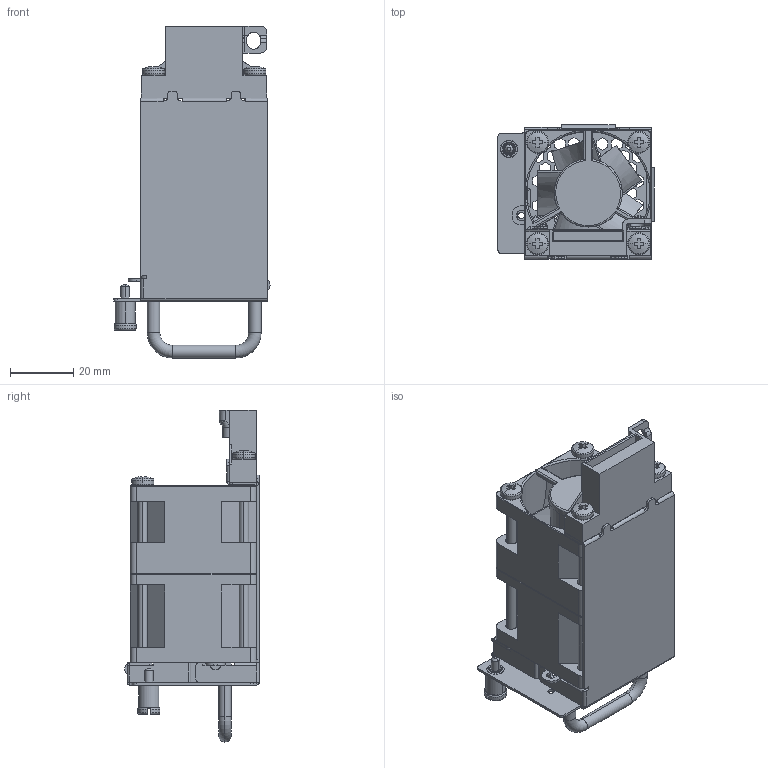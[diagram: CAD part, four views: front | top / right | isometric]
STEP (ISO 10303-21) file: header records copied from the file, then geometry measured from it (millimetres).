
FILE_DESCRIPTION((''),'2;1');
FILE_NAME('C0TZZ5654000A-ES6622BT_ASM','2014-07-10T',('enoch'),(''),'PRO/ENGINEER BY PARAMETRIC TECHNOLOGY CORPORATION, 2012480','PRO/ENGINEER BY PARAMETRIC TECHNOLOGY CORPORATION, 2012480','');
FILE_SCHEMA(('AUTOMOTIVE_DESIGN { 1 0 10303 214 1 1 1 1 }'));
Length unit declared in the file: millimetre
Products named in the file (11): FAN-TRAY-BASE-ES6622BT; 52-33-51; HANDLE-FAN-ICX6680; 124025-010-M3X6-2W_1; EMI-GASKET-4X17X1P5T; FANTRAY-BASE-ASSY-ES6622BT_ASM; FAN-NIDEC4056-40X56_2; CON-SD-46856001-MOLEX; SCREW-1-FAN-ES6622BT; SCREW-2-FAN-ES6622BT; C0TZZ5654000A-ES6622BT_ASM
Assembly tree (14 placements, depth 3):
  C0TZZ5654000A-ES6622BT_ASM
    FANTRAY-BASE-ASSY-ES6622BT_ASM
      FAN-TRAY-BASE-ES6622BT
      52-33-51
      HANDLE-FAN-ICX6680
      124025-010-M3X6-2W_1  x2
      EMI-GASKET-4X17X1P5T  x2
    FAN-NIDEC4056-40X56_2
    CON-SD-46856001-MOLEX
    SCREW-1-FAN-ES6622BT  x2
    SCREW-2-FAN-ES6622BT  x2
Bounding box: 49.3 x 42.45 x 104.88 mm (x, y, z)
Volume: 45180.6 mm3; surface area: 45689.7 mm2
Topology: 12 solids, 75 shells, 1476 faces, 4070 edges, 2684 vertices
Faces by surface type: plane 864, cylinder 428, torus 85, bspline 51, extrusion 20, cone 16, sphere 12
Entity records: 57639 total; most frequent: CARTESIAN_POINT 15927, ORIENTED_EDGE 6922, DIRECTION 6671, EDGE_CURVE 3615, VECTOR 2485, PRESENTATION_STYLE_ASSIGNMENT 2480, STYLED_ITEM 2480, CURVE_STYLE 2475
